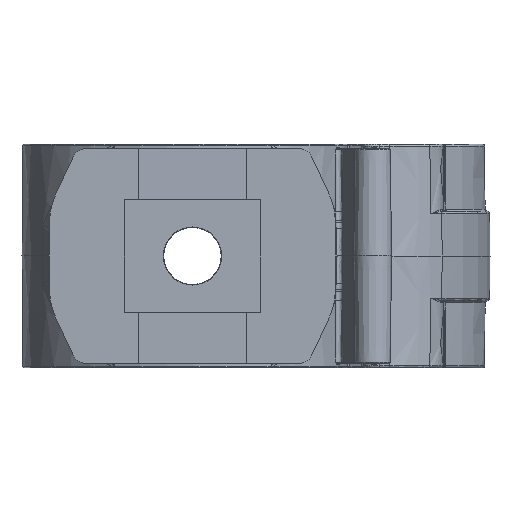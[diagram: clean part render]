
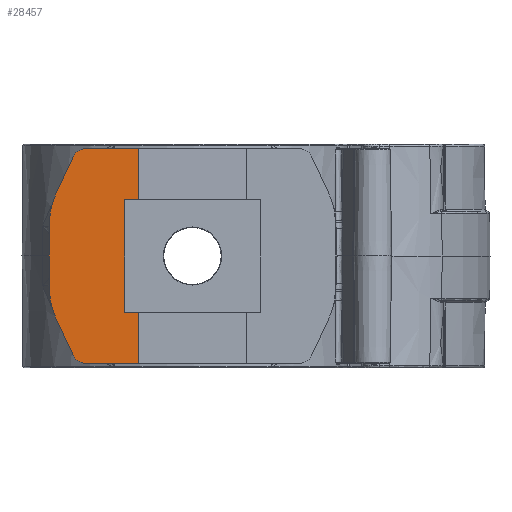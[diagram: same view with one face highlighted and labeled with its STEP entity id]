
A CAD part, front view. The second image highlights one B-rep face of the part: STEP entity #28457.
In plain terms, the highlighted planar face has unit normal (0, -1, 0).
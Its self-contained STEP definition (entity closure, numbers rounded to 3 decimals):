
#332 = LINE ( 'NONE', #3346, #339 ) ;
#339 = VECTOR ( 'NONE', #3351, 1000. ) ;
#369 = LINE ( 'NONE', #3401, #384 ) ;
#374 = LINE ( 'NONE', #3395, #377 ) ;
#376 = LINE ( 'NONE', #3397, #379 ) ;
#377 = VECTOR ( 'NONE', #3396, 1000. ) ;
#378 = LINE ( 'NONE', #3399, #381 ) ;
#379 = VECTOR ( 'NONE', #3398, 1000. ) ;
#380 = CIRCLE ( 'NONE', #1973, 1.5 ) ;
#381 = VECTOR ( 'NONE', #3400, 1000. ) ;
#382 = CIRCLE ( 'NONE', #1974, 7. ) ;
#383 = LINE ( 'NONE', #3408, #387 ) ;
#384 = VECTOR ( 'NONE', #3389, 1000. ) ;
#385 = LINE ( 'NONE', #3407, #389 ) ;
#387 = VECTOR ( 'NONE', #3405, 1000. ) ;
#388 = CIRCLE ( 'NONE', #1975, 7. ) ;
#389 = VECTOR ( 'NONE', #3413, 1000. ) ;
#390 = LINE ( 'NONE', #3412, #392 ) ;
#391 = CIRCLE ( 'NONE', #1976, 1.5 ) ;
#392 = VECTOR ( 'NONE', #3406, 1000. ) ;
#393 = LINE ( 'NONE', #3414, #395 ) ;
#394 = LINE ( 'NONE', #3424, #397 ) ;
#395 = VECTOR ( 'NONE', #3415, 1000. ) ;
#396 = LINE ( 'NONE', #3426, #399 ) ;
#397 = VECTOR ( 'NONE', #3425, 1000. ) ;
#399 = VECTOR ( 'NONE', #3428, 1000. ) ;
#1973 = AXIS2_PLACEMENT_3D ( 'NONE', #3402, #3403, #3404 ) ;
#1974 = AXIS2_PLACEMENT_3D ( 'NONE', #3409, #3410, #3411 ) ;
#1975 = AXIS2_PLACEMENT_3D ( 'NONE', #3416, #3417, #3418 ) ;
#1976 = AXIS2_PLACEMENT_3D ( 'NONE', #3421, #3422, #3423 ) ;
#2521 = AXIS2_PLACEMENT_3D ( 'NONE', #9615, #9616, #9617 ) ;
#3346 = CARTESIAN_POINT ( 'NONE',  ( -30., -40., -12. ) ) ;
#3351 = DIRECTION ( 'NONE',  ( 1., 0., 0. ) ) ;
#3389 = DIRECTION ( 'NONE',  ( 0.423, 0., 0.906 ) ) ;
#3395 = CARTESIAN_POINT ( 'NONE',  ( -7.6, -40., 6.3 ) ) ;
#3396 = DIRECTION ( 'NONE',  ( -1., 0., 0. ) ) ;
#3397 = CARTESIAN_POINT ( 'NONE',  ( -5.99, -40., 0.121 ) ) ;
#3398 = DIRECTION ( 'NONE',  ( 0.005, 0., -1. ) ) ;
#3399 = CARTESIAN_POINT ( 'NONE',  ( -30., -40., 12. ) ) ;
#3400 = DIRECTION ( 'NONE',  ( 1., 0., 0. ) ) ;
#3401 = CARTESIAN_POINT ( 'NONE',  ( -20.547, -40., -4.408 ) ) ;
#3402 = CARTESIAN_POINT ( 'NONE',  ( -11.94, -40., 10.5 ) ) ;
#3403 = DIRECTION ( 'NONE',  ( 0., 1., 0. ) ) ;
#3404 = DIRECTION ( 'NONE',  ( 0., 0., -1. ) ) ;
#3405 = DIRECTION ( 'NONE',  ( 0.009, 0., 1. ) ) ;
#3406 = DIRECTION ( 'NONE',  ( 0.423, 0., -0.906 ) ) ;
#3407 = CARTESIAN_POINT ( 'NONE',  ( -16.001, -40., 0.122 ) ) ;
#3408 = CARTESIAN_POINT ( 'NONE',  ( -16.001, -40., -0.122 ) ) ;
#3409 = CARTESIAN_POINT ( 'NONE',  ( -8.966, -40., 3.863 ) ) ;
#3410 = DIRECTION ( 'NONE',  ( 0., 1., 0. ) ) ;
#3411 = DIRECTION ( 'NONE',  ( 0., 0., -1. ) ) ;
#3412 = CARTESIAN_POINT ( 'NONE',  ( -20.547, -40., 4.408 ) ) ;
#3413 = DIRECTION ( 'NONE',  ( 0.009, 0., -1. ) ) ;
#3414 = CARTESIAN_POINT ( 'NONE',  ( -5.99, -40., -0.121 ) ) ;
#3415 = DIRECTION ( 'NONE',  ( 0.005, 0., 1. ) ) ;
#3416 = CARTESIAN_POINT ( 'NONE',  ( -8.966, -40., -3.863 ) ) ;
#3417 = DIRECTION ( 'NONE',  ( 0., -1., 0. ) ) ;
#3418 = DIRECTION ( 'NONE',  ( 0., 0., -1. ) ) ;
#3421 = CARTESIAN_POINT ( 'NONE',  ( -11.94, -40., -10.5 ) ) ;
#3422 = DIRECTION ( 'NONE',  ( 0., -1., 0. ) ) ;
#3423 = DIRECTION ( 'NONE',  ( 0., 0., -1. ) ) ;
#3424 = CARTESIAN_POINT ( 'NONE',  ( -7.6, -40., -6.3 ) ) ;
#3425 = DIRECTION ( 'NONE',  ( 1., 0., 0. ) ) ;
#3426 = CARTESIAN_POINT ( 'NONE',  ( -7.6, -40., 6.3 ) ) ;
#3428 = DIRECTION ( 'NONE',  ( 0., 0., -1. ) ) ;
#8925 = FACE_OUTER_BOUND ( 'NONE', #34589, .T. ) ;
#9590 = PLANE ( 'NONE',  #2521 ) ;
#9615 = CARTESIAN_POINT ( 'NONE',  ( -30., -40., 0. ) ) ;
#9616 = DIRECTION ( 'NONE',  ( 0., -1., 0. ) ) ;
#9617 = DIRECTION ( 'NONE',  ( 0., 0., -1. ) ) ;
#13539 = CARTESIAN_POINT ( 'NONE',  ( -11.94, -40., -12. ) ) ;
#13540 = CARTESIAN_POINT ( 'NONE',  ( -6.05, -40., -12. ) ) ;
#13557 = CARTESIAN_POINT ( 'NONE',  ( -13.299, -40., 11.134 ) ) ;
#13558 = CARTESIAN_POINT ( 'NONE',  ( -6.021, -40., 6.3 ) ) ;
#13559 = CARTESIAN_POINT ( 'NONE',  ( -6.05, -40., 12. ) ) ;
#13560 = CARTESIAN_POINT ( 'NONE',  ( -7.6, -40., 6.3 ) ) ;
#13561 = CARTESIAN_POINT ( 'NONE',  ( -15.31, -40., 6.821 ) ) ;
#13562 = CARTESIAN_POINT ( 'NONE',  ( -11.94, -40., 12. ) ) ;
#13563 = CARTESIAN_POINT ( 'NONE',  ( -15.966, -40., 3.924 ) ) ;
#13564 = CARTESIAN_POINT ( 'NONE',  ( -16., -40., 0. ) ) ;
#13568 = CARTESIAN_POINT ( 'NONE',  ( -6.021, -40., -6.3 ) ) ;
#13569 = CARTESIAN_POINT ( 'NONE',  ( -15.966, -40., -3.924 ) ) ;
#13570 = CARTESIAN_POINT ( 'NONE',  ( -15.31, -40., -6.821 ) ) ;
#13571 = CARTESIAN_POINT ( 'NONE',  ( -13.299, -40., -11.134 ) ) ;
#13572 = CARTESIAN_POINT ( 'NONE',  ( -7.6, -40., -6.3 ) ) ;
#20422 = ORIENTED_EDGE ( 'NONE', *, *, #28136, .F. ) ;
#20423 = ORIENTED_EDGE ( 'NONE', *, *, #28137, .F. ) ;
#20424 = ORIENTED_EDGE ( 'NONE', *, *, #28138, .F. ) ;
#20425 = ORIENTED_EDGE ( 'NONE', *, *, #28139, .F. ) ;
#20426 = ORIENTED_EDGE ( 'NONE', *, *, #28140, .F. ) ;
#20427 = ORIENTED_EDGE ( 'NONE', *, *, #28141, .F. ) ;
#20428 = ORIENTED_EDGE ( 'NONE', *, *, #28142, .F. ) ;
#20429 = ORIENTED_EDGE ( 'NONE', *, *, #28143, .T. ) ;
#20430 = ORIENTED_EDGE ( 'NONE', *, *, #28144, .T. ) ;
#20431 = ORIENTED_EDGE ( 'NONE', *, *, #28145, .T. ) ;
#20432 = ORIENTED_EDGE ( 'NONE', *, *, #28146, .T. ) ;
#20433 = ORIENTED_EDGE ( 'NONE', *, *, #28115, .T. ) ;
#20434 = ORIENTED_EDGE ( 'NONE', *, *, #28147, .T. ) ;
#20435 = ORIENTED_EDGE ( 'NONE', *, *, #28148, .F. ) ;
#20436 = ORIENTED_EDGE ( 'NONE', *, *, #28149, .F. ) ;
#28115 = EDGE_CURVE ( 'NONE', #29617, #29618, #332, .T. ) ;
#28136 = EDGE_CURVE ( 'NONE', #29636, #29638, #374, .T. ) ;
#28137 = EDGE_CURVE ( 'NONE', #29637, #29636, #376, .T. ) ;
#28138 = EDGE_CURVE ( 'NONE', #29640, #29637, #378, .T. ) ;
#28139 = EDGE_CURVE ( 'NONE', #29635, #29640, #380, .T. ) ;
#28140 = EDGE_CURVE ( 'NONE', #29639, #29635, #369, .T. ) ;
#28141 = EDGE_CURVE ( 'NONE', #29641, #29639, #382, .T. ) ;
#28142 = EDGE_CURVE ( 'NONE', #29642, #29641, #383, .T. ) ;
#28143 = EDGE_CURVE ( 'NONE', #29642, #29647, #385, .T. ) ;
#28144 = EDGE_CURVE ( 'NONE', #29647, #29648, #388, .T. ) ;
#28145 = EDGE_CURVE ( 'NONE', #29648, #29649, #390, .T. ) ;
#28146 = EDGE_CURVE ( 'NONE', #29649, #29617, #391, .T. ) ;
#28147 = EDGE_CURVE ( 'NONE', #29618, #29646, #393, .T. ) ;
#28148 = EDGE_CURVE ( 'NONE', #29650, #29646, #394, .T. ) ;
#28149 = EDGE_CURVE ( 'NONE', #29638, #29650, #396, .T. ) ;
#28457 = ADVANCED_FACE ( 'NONE', ( #8925 ), #9590, .T. ) ;
#29617 = VERTEX_POINT ( 'NONE', #13539 ) ;
#29618 = VERTEX_POINT ( 'NONE', #13540 ) ;
#29635 = VERTEX_POINT ( 'NONE', #13557 ) ;
#29636 = VERTEX_POINT ( 'NONE', #13558 ) ;
#29637 = VERTEX_POINT ( 'NONE', #13559 ) ;
#29638 = VERTEX_POINT ( 'NONE', #13560 ) ;
#29639 = VERTEX_POINT ( 'NONE', #13561 ) ;
#29640 = VERTEX_POINT ( 'NONE', #13562 ) ;
#29641 = VERTEX_POINT ( 'NONE', #13563 ) ;
#29642 = VERTEX_POINT ( 'NONE', #13564 ) ;
#29646 = VERTEX_POINT ( 'NONE', #13568 ) ;
#29647 = VERTEX_POINT ( 'NONE', #13569 ) ;
#29648 = VERTEX_POINT ( 'NONE', #13570 ) ;
#29649 = VERTEX_POINT ( 'NONE', #13571 ) ;
#29650 = VERTEX_POINT ( 'NONE', #13572 ) ;
#34589 = EDGE_LOOP ( 'NONE', ( #20422, #20423, #20424, #20425, #20426, #20427, #20428, #20429, #20430, #20431, #20432, #20433, #20434, #20435, #20436 ) ) ;
